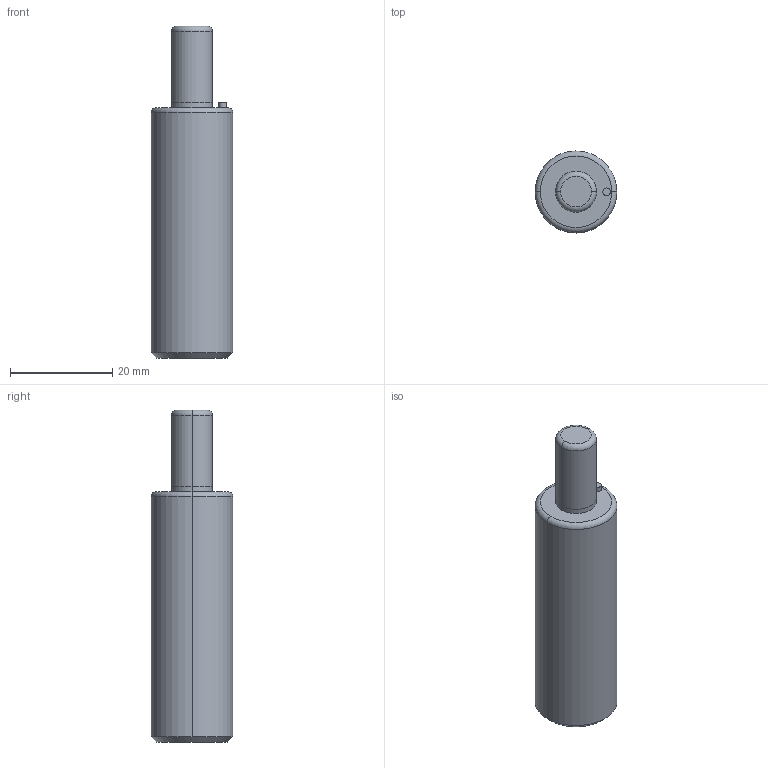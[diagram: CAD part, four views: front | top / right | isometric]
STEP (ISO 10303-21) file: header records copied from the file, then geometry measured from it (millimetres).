
FILE_DESCRIPTION(/* description */ (''),/* implementation_level */ '2;1');
FILE_NAME(/* name */ '3d_mgsc16-15_04571_r00.stp',/* time_stamp */ '2011-01-10T14:13:35+09:00',/* author */ ('MISUMI'),/* organization */ (''),/* preprocessor_version */ 'ST-DEVELOPER v11',/* originating_system */ 'UGS - NX 5.0',/* authorisation */ '');
FILE_SCHEMA (('CONFIG_CONTROL_DESIGN'));
Length unit declared in the file: millimetre
Products named in the file (1): 3d_mgsc16-15_04571_r00
Bounding box: 16 x 16 x 65 mm (x, y, z)
Volume: 10412.6 mm3; surface area: 3368.1 mm2
Topology: 1 solids, 1 shells, 24 faces, 48 edges, 27 vertices
Faces by surface type: cylinder 12, plane 4, torus 4, cone 4
Entity records: 698 total; most frequent: DIRECTION 126, CARTESIAN_POINT 98, ORIENTED_EDGE 92, AXIS2_PLACEMENT_3D 55, EDGE_CURVE 46, CIRCLE 30, EDGE_LOOP 27, VERTEX_POINT 27
